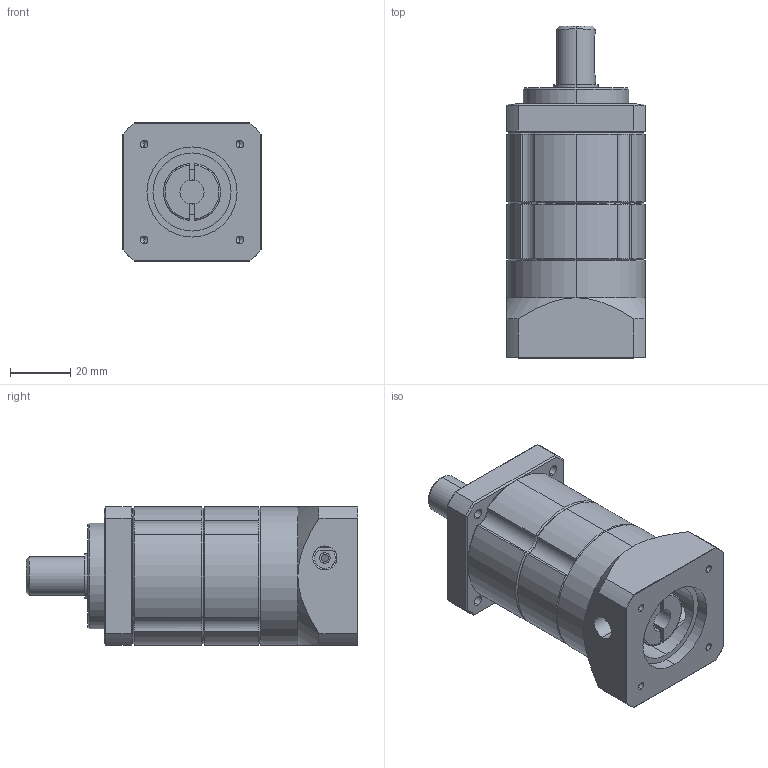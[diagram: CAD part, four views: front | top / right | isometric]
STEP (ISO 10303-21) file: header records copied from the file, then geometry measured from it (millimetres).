
FILE_DESCRIPTION (( 'STEP AP203' ), '1' );
FILE_NAME ('KX40-L2£r30PCD£r45M3.STEP', '2014-04-17T00:25:29', ( 'KELLY' ), ( '' ), 'SwSTEP 2.0', 'SolidWorks 2012', '' );
FILE_SCHEMA (( 'CONFIG_CONTROL_DESIGN' ));
Length unit declared in the file: millimetre
Products named in the file (1): KX40-L2｣r30PCD｣r45M3
Bounding box: 46 x 110.5 x 46 mm (x, y, z)
Volume: 144818.3 mm3; surface area: 34492.7 mm2
Topology: 4 solids, 4 shells, 213 faces, 504 edges, 303 vertices
Faces by surface type: cylinder 84, cone 76, plane 49, torus 4
Entity records: 6679 total; most frequent: CARTESIAN_POINT 1699, DIRECTION 1072, ORIENTED_EDGE 988, EDGE_CURVE 494, AXIS2_PLACEMENT_3D 450, VERTEX_POINT 303, EDGE_LOOP 247, CIRCLE 236
